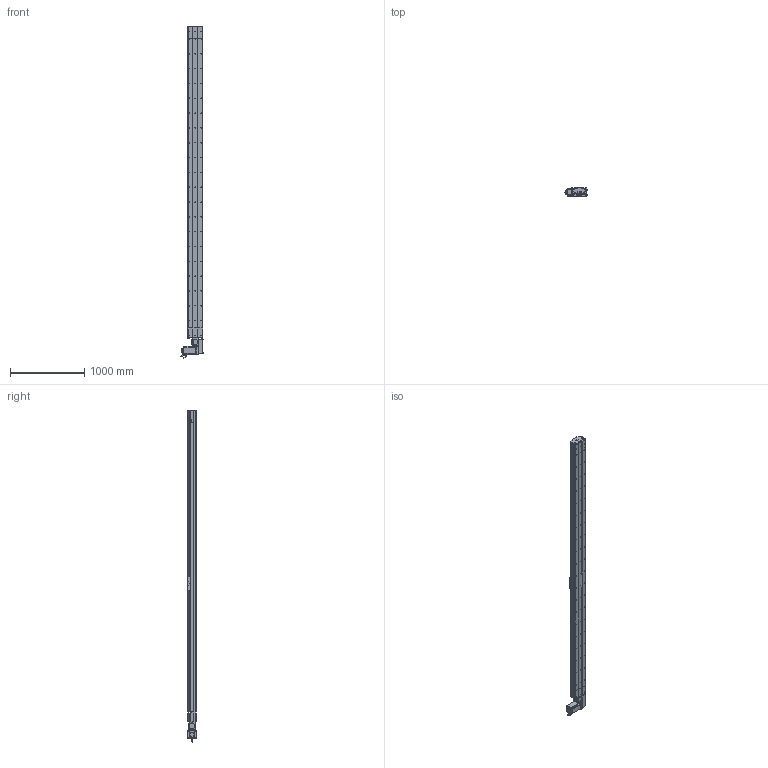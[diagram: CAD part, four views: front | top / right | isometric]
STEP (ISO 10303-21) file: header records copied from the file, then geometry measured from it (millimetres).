
FILE_DESCRIPTION (( 'STEP AP214' ), '1' );
FILE_NAME ('D20 TBH LH S3900.STEP', '2010-07-01T09:13:24', ( 'Conseil Régional Haute-Normandie' ), ( 'Conseil Régional Haute-Normandie' ), 'SwSTEP 2.0', 'SolidWorks 2010', '' );
FILE_SCHEMA (( 'AUTOMOTIVE_DESIGN' ));
Length unit declared in the file: millimetre
Products named in the file (40): vis M5 L5_Default; vis M5 L8 90°_Default; corp D20 S3900_Default; couroie_Default; cache D20_Default; cache arbre D20_Default; plaque de  bout head D20B LH_Default; Chariot D20B; vis M5 L12_Default; chariot D20B_Default; rail + couroie  D20 S3900; couvercle D20 S3900_Default; poulie head D20_Default; couvercle head D20_Default; D20 TBH LH S3900; rail head D20; corpl head D20_Default; Course B L3900_Default; head LH_Default; guide D20B; tete d''axe poulie D20B; plaque de  bout tail D20_Default; Conecteur_Default; couvercle tail D20_Default; Couroie tail D20_Default; vis M5 L70_Default; poulie tail D20_Default; corpl tail D20 +100_Default; tail D20+100_Default; avant 110BLDC170A-630x; vis M8 L12_Default; vis M5 L25_Default; clavette; Moteur motionking 110BLDC170A-640x; Conecteur2_Default; Renvoi LH D20_Default; codeur 110BLDC170A-630x; corps 110BLDC170A-630x; Plaque racord D20LH_Default; rail tail D20
Assembly tree (71 placements, depth 4):
  D20 TBH LH S3900
    chariot D20B_Default
      vis M5 L12_Default  x4
      Chariot D20B
      guide D20B  x2
    head LH_Default
      vis M5 L70_Default  x4
      Plaque racord D20LH_Default
      Moteur motionking 110BLDC170A-640x
        codeur 110BLDC170A-630x
        avant 110BLDC170A-630x
        Conecteur2_Default
        clavette
        Conecteur_Default
        corps 110BLDC170A-630x
      rail head D20
      vis M5 L25_Default  x2
      vis M5 L5_Default  x4
      cache D20_Default  x2
      vis M5 L12_Default  x10
      plaque de  bout head D20B LH_Default
      couroie_Default
      Renvoi LH D20_Default
      cache arbre D20_Default
      vis M8 L12_Default  x4
      couvercle head D20_Default
      poulie head D20_Default
      corpl head D20_Default
    Course B L3900_Default
      corp D20 S3900_Default
      rail + couroie  D20 S3900
      couvercle D20 S3900_Default
    tail D20+100_Default
      corpl tail D20 +100_Default
      poulie tail D20_Default
      vis M5 L12_Default  x4
      vis M5 L25_Default  x2
      Couroie tail D20_Default
      vis M5 L8 90°_Default  x2
      couvercle tail D20_Default
      plaque de  bout tail D20_Default
      rail tail D20
      tete d''axe poulie D20B
Bounding box: 304.2 x 115.7 x 4480 mm (x, y, z)
Volume: 33253491.3 mm3; surface area: 8300994.9 mm2
Topology: 95 solids, 95 shells, 2949 faces, 7677 edges, 4969 vertices
Faces by surface type: plane 1662, cylinder 963, bspline 136, cone 99, torus 89
Entity records: 97412 total; most frequent: CARTESIAN_POINT 32079, ORIENTED_EDGE 12010, DIRECTION 11212, EDGE_CURVE 6005, VERTEX_POINT 3955, AXIS2_PLACEMENT_3D 3740, LINE 3732, VECTOR 3732
